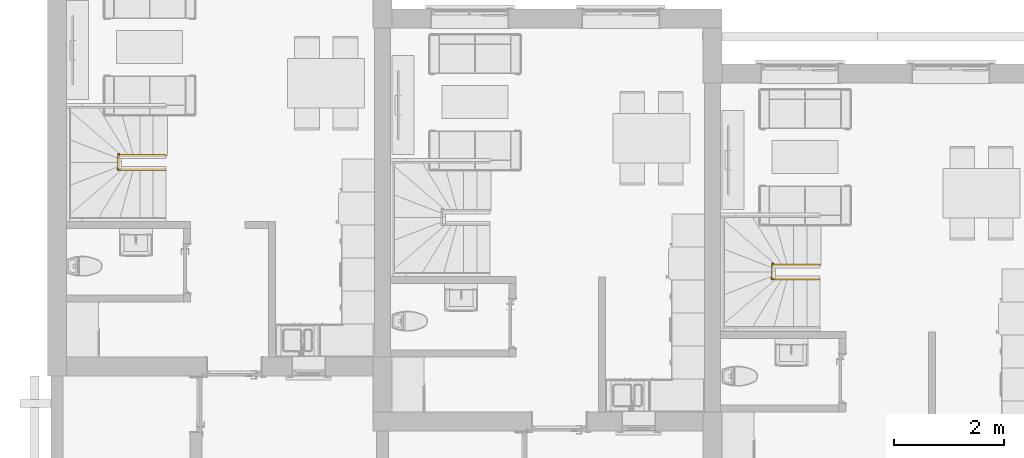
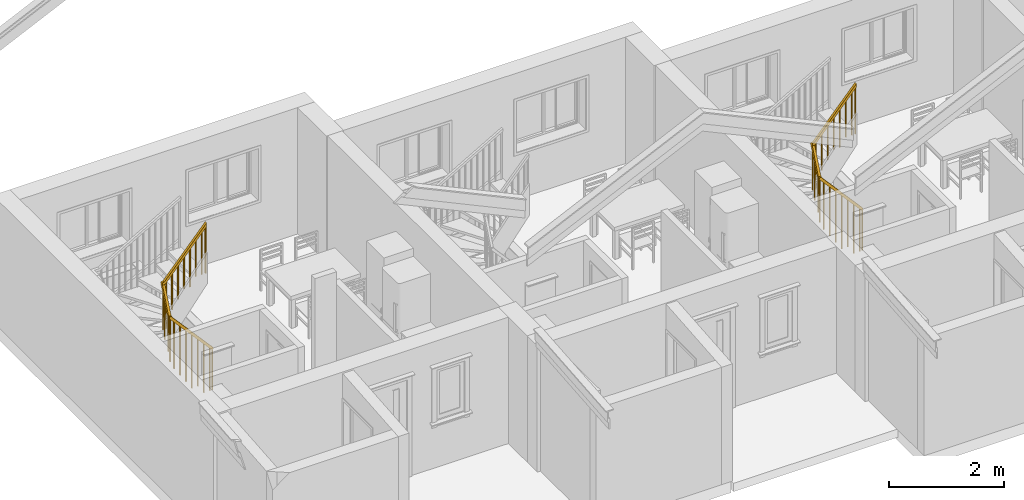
# One storey, part 29 of 65: 2 railings, 2 elements without a shape of their own.
"""IFC2X3 building model written with IfcOpenShell, lengths in millimetres."""

from ifc_helpers import new_model, entity, si_unit, converted_unit, direction, frame, origin, place, context, subcontext, project, spatial, faceted_brep, material, type_object, element, aggregate, save


model = new_model("IFC2X3")

# Units and contexts
model_context = context("Model", 3, precision=0.01, world=origin(), true_north=direction((0.0, 1.0)))
body_context = subcontext(model_context, "Body", "Model", "MODEL_VIEW")
ifc_project = project(units=[si_unit("LENGTHUNIT", "METRE", prefix="MILLI"), si_unit("AREAUNIT", "SQUARE_METRE"), si_unit("VOLUMEUNIT", "CUBIC_METRE"), converted_unit("PLANEANGLEUNIT", "DEGREE", entity("IfcPlaneAngleMeasure", 0.017453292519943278), si_unit("PLANEANGLEUNIT", "RADIAN"), dimensions=[0, 0, 0, 0, 0, 0, 0])], contexts=[model_context])

# Site, building, storey
site_placement = place(None, origin())
site = spatial("IfcSite", under=ifc_project, at=site_placement, Name="Default", CompositionType="ELEMENT")
building_placement = place(site_placement, origin())
building = spatial("IfcBuilding", under=site, at=building_placement, CompositionType="ELEMENT")
storey_placement = place(building_placement, origin())
storey = spatial("IfcBuildingStorey", under=building, at=storey_placement, Name="Et. 1", CompositionType="ELEMENT", Elevation=0.0)

# Stair, railing
type_product = type_object("IfcTypeProduct", Name="Assembled Stair:Tretrapp - Åpne trinn m/ vanger")
stair_1_placement = place(storey_placement, origin())
stair_1 = element("IfcStair", 1, at=stair_1_placement, inside=storey, type_object=type_product, Name="Assembled Stair:Stair", ShapeType="NOTDEFINED")
ifc_material = material(Name="Metall - Malt - MØRK GRÅ MATT")
railing_type = type_object("IfcRailingType", Name="Railing:900mm", PredefinedType="NOTDEFINED")
railing_1_placement = place(stair_1_placement, frame((11357.898701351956, 15144.751787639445, 178.73333333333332)))
railing_1 = element("IfcRailing", 2, at=railing_1_placement, type_object=railing_type, material=ifc_material, Name="Railing:900mm", PredefinedType="NOTDEFINED", context=body_context, shape_type="Brep", body=[
    faceted_brep([(799.5697545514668, 275.8000000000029, 3249.8664435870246), (799.5697545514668, 275.8000000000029, 2323.5333333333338), (799.5697545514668, 255.8000000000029, 2323.5333333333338), (799.5697545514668, 255.8000000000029, 3249.8664435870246), (819.5697545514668, 255.8000000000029, 2323.5333333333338), (819.5697545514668, 255.8000000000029, 3272.3984052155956), (819.5697545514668, 275.8000000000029, 2323.5333333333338), (819.5697545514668, 275.8000000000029, 3272.3984052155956)], [[[0, 1, 2, 3]], [[3, 2, 4, 5]], [[5, 4, 6, 7]], [[1, 0, 7, 6]], [[0, 3, 5, 7]], [[2, 1, 6, 4]]]),
    faceted_brep([(679.5697545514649, 275.8000000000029, 3114.674673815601), (679.5697545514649, 275.8000000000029, 2323.5333333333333), (679.5697545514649, 255.8000000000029, 2323.5333333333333), (679.5697545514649, 255.8000000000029, 3114.674673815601), (699.5697545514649, 255.8000000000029, 2323.5333333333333), (699.5697545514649, 255.8000000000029, 3137.2066354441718), (699.5697545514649, 275.8000000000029, 2323.5333333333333), (699.5697545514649, 275.8000000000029, 3137.2066354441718)], [[[0, 1, 2, 3]], [[3, 2, 4, 5]], [[5, 4, 6, 7]], [[1, 0, 7, 6]], [[0, 3, 5, 7]], [[2, 1, 6, 4]]]),
    faceted_brep([(559.5697545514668, 275.8000000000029, 2979.482904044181), (559.5697545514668, 275.8000000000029, 2144.8000000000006), (559.5697545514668, 255.8000000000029, 2144.8000000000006), (559.5697545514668, 255.8000000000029, 2979.482904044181), (579.5697545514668, 255.8000000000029, 2144.8000000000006), (579.5697545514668, 255.8000000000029, 3002.0148656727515), (579.5697545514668, 275.8000000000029, 2144.8000000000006), (579.5697545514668, 275.8000000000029, 3002.0148656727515)], [[[0, 1, 2, 3]], [[3, 2, 4, 5]], [[5, 4, 6, 7]], [[1, 0, 7, 6]], [[0, 3, 5, 7]], [[2, 1, 6, 4]]]),
    faceted_brep([(439.56975455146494, 275.80000000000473, 2844.291134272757), (439.56975455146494, 275.80000000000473, 2144.8000000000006), (439.56975455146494, 255.80000000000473, 2144.8000000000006), (439.56975455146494, 255.80000000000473, 2844.291134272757), (459.56975455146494, 255.80000000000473, 2144.8000000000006), (459.56975455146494, 255.80000000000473, 2866.823095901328), (459.56975455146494, 275.80000000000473, 2144.8000000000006), (459.56975455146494, 275.80000000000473, 2866.823095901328)], [[[0, 1, 2, 3]], [[3, 2, 4, 5]], [[5, 4, 6, 7]], [[1, 0, 7, 6]], [[0, 3, 5, 7]], [[2, 1, 6, 4]]]),
    faceted_brep([(319.56975455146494, 275.80000000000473, 2709.099364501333), (319.56975455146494, 275.80000000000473, 1966.0666666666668), (319.56975455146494, 255.80000000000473, 1966.0666666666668), (319.56975455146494, 255.80000000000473, 2709.099364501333), (339.56975455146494, 255.80000000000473, 1966.0666666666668), (339.56975455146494, 255.80000000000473, 2731.6313261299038), (339.56975455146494, 275.80000000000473, 1966.0666666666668), (339.56975455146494, 275.80000000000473, 2731.6313261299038)], [[[0, 1, 2, 3]], [[3, 2, 4, 5]], [[5, 4, 6, 7]], [[1, 0, 7, 6]], [[0, 3, 5, 7]], [[2, 1, 6, 4]]]),
    faceted_brep([(199.56975455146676, 275.80000000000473, 2573.907594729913), (199.56975455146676, 275.80000000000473, 1787.333333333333), (199.56975455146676, 255.80000000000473, 1787.333333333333), (199.56975455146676, 255.80000000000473, 2573.907594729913), (219.56975455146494, 255.80000000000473, 1787.333333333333), (219.56975455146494, 255.80000000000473, 2596.4395563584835), (219.56975455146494, 275.80000000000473, 1787.333333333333), (219.56975455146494, 275.80000000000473, 2596.4395563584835)], [[[0, 1, 2, 3]], [[3, 2, 4, 5]], [[5, 4, 6, 7]], [[1, 0, 7, 6]], [[0, 3, 5, 7]], [[2, 1, 6, 4]]]),
    faceted_brep([(79.56975455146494, 275.80000000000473, 2438.7158249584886), (79.56975455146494, 275.80000000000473, 1429.8666666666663), (79.56975455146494, 255.80000000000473, 1429.8666666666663), (79.56975455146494, 255.80000000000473, 2438.7158249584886), (99.56975455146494, 255.80000000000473, 1429.8666666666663), (99.56975455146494, 255.80000000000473, 2461.2477865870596), (99.56975455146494, 275.80000000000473, 1429.8666666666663), (99.56975455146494, 275.80000000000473, 2461.2477865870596)], [[[0, 1, 2, 3]], [[3, 2, 4, 5]], [[5, 4, 6, 7]], [[1, 0, 7, 6]], [[0, 3, 5, 7]], [[2, 1, 6, 4]]]),
    faceted_brep([(19.56975455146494, 195.0, 2224.260740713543), (19.56975455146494, 195.0, 1251.1333333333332), (39.56975455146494, 195.0, 1251.1333333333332), (39.56975455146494, 195.0, 2224.260740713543), (39.56975455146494, 215.0, 1251.1333333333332), (39.56975455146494, 215.0, 2273.9088888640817), (19.56975455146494, 215.0, 1251.1333333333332), (19.56975455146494, 215.0, 2273.9088888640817)], [[[0, 1, 2, 3]], [[3, 2, 4, 5]], [[5, 4, 6, 7]], [[1, 0, 7, 6]], [[0, 3, 5, 7]], [[2, 1, 6, 4]]]),
    faceted_brep([(19.56975455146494, 75.0, 1926.3718518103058), (19.56975455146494, 75.0, 1072.4000000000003), (39.56975455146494, 75.0, 1072.4000000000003), (39.56975455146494, 75.0, 1926.3718518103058), (39.56975455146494, 95.0, 1072.4000000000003), (39.56975455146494, 95.0, 1976.019999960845), (19.56975455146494, 95.0, 1072.4000000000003), (19.56975455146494, 95.0, 1976.019999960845)], [[[0, 1, 2, 3]], [[3, 2, 4, 5]], [[5, 4, 6, 7]], [[1, 0, 7, 6]], [[0, 3, 5, 7]], [[2, 1, 6, 4]]]),
    faceted_brep([(120.46305970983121, 15.0, 1717.4805225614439), (120.46305970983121, 15.0, 714.9333333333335), (120.46305970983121, 35.0, 714.9333333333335), (120.46305970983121, 35.0, 1717.4805225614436), (100.46305970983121, 35.0, 714.9333333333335), (100.46305970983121, 35.0, 1740.0124841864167), (100.46305970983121, 15.0, 714.9333333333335), (100.46305970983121, 15.0, 1740.0124841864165)], [[[0, 1, 2, 3]], [[3, 2, 4, 5]], [[5, 4, 6, 7]], [[1, 0, 7, 6]], [[0, 3, 5, 7]], [[2, 1, 6, 4]]]),
    faceted_brep([(240.46305970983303, 15.0, 1582.2887528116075), (240.46305970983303, 15.0, 536.2000000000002), (240.46305970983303, 35.0, 536.2000000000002), (240.46305970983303, 35.0, 1582.288752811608), (220.46305970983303, 35.0, 536.2000000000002), (220.46305970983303, 35.0, 1604.8207144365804), (220.46305970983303, 15.0, 536.2000000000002), (220.46305970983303, 15.0, 1604.8207144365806)], [[[0, 1, 2, 3]], [[3, 2, 4, 5]], [[5, 4, 6, 7]], [[1, 0, 7, 6]], [[0, 3, 5, 7]], [[2, 1, 6, 4]]]),
    faceted_brep([(360.4630597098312, 15.0, 1447.0969830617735), (360.4630597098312, 15.0, 357.4666666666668), (360.4630597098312, 35.0, 357.4666666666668), (360.4630597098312, 35.0, 1447.0969830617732), (340.4630597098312, 35.0, 357.4666666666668), (340.4630597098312, 35.0, 1469.628944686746), (340.4630597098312, 15.0, 357.4666666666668), (340.4630597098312, 15.0, 1469.628944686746)], [[[0, 1, 2, 3]], [[3, 2, 4, 5]], [[5, 4, 6, 7]], [[1, 0, 7, 6]], [[0, 3, 5, 7]], [[2, 1, 6, 4]]]),
    faceted_brep([(480.4630597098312, 15.0, 1311.9052133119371), (480.4630597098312, 15.0, 178.73333333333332), (480.4630597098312, 35.0, 178.73333333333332), (480.4630597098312, 35.0, 1311.9052133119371), (460.4630597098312, 35.0, 178.73333333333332), (460.4630597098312, 35.0, 1334.4371749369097), (460.4630597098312, 15.0, 178.73333333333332), (460.4630597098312, 15.0, 1334.4371749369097)], [[[0, 1, 2, 3]], [[3, 2, 4, 5]], [[5, 4, 6, 7]], [[1, 0, 7, 6]], [[0, 3, 5, 7]], [[2, 1, 6, 4]]]),
    faceted_brep([(600.463059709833, 15.0, 1176.7134435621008), (600.463059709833, 15.0, 178.73333333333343), (600.463059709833, 35.0, 178.73333333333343), (600.463059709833, 35.0, 1176.713443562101), (580.463059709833, 35.0, 178.73333333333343), (580.463059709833, 35.0, 1199.2454051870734), (580.463059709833, 15.0, 178.73333333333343), (580.463059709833, 15.0, 1199.2454051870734)], [[[0, 1, 2, 3]], [[3, 2, 4, 5]], [[5, 4, 6, 7]], [[1, 0, 7, 6]], [[0, 3, 5, 7]], [[2, 1, 6, 4]]]),
    faceted_brep([(720.4630597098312, 15.0, 1041.521673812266), (720.4630597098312, 15.0, 0.0), (720.4630597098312, 35.0, 0.0), (720.4630597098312, 35.0, 1041.521673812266), (700.4630597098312, 35.0, 0.0), (700.4630597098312, 35.0, 1064.0536354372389), (700.4630597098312, 15.0, 0.0), (700.4630597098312, 15.0, 1064.0536354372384)], [[[0, 1, 2, 3]], [[3, 2, 4, 5]], [[5, 4, 6, 7]], [[1, 0, 7, 6]], [[0, 3, 5, 7]], [[2, 1, 6, 4]]]),
    faceted_brep([(840.463059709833, 15.0, 906.3299040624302), (840.463059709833, 15.0, 0.0), (840.463059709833, 35.0, 0.0), (840.463059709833, 35.0, 906.3299040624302), (820.463059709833, 35.0, 0.0), (820.463059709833, 35.0, 928.8618656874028), (820.463059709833, 15.0, 0.0), (820.463059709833, 15.0, 928.8618656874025)], [[[0, 1, 2, 3]], [[3, 2, 4, 5]], [[5, 4, 6, 7]], [[1, 0, 7, 6]], [[0, 3, 5, 7]], [[2, 1, 6, 4]]]),
    faceted_brep([(19.56975455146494, 255.80000000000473, 2391.200553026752), (19.56975455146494, 255.80000000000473, 1429.8666666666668), (39.56975455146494, 255.80000000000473, 1429.8666666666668), (39.56975455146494, 255.80000000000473, 2391.200553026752), (39.56975455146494, 275.80000000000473, 1429.8666666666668), (39.56975455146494, 275.80000000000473, 2391.200553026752), (19.56975455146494, 275.80000000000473, 1429.8666666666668), (19.56975455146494, 275.80000000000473, 2391.200553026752)], [[[0, 1, 2, 3]], [[3, 2, 4, 5]], [[5, 4, 6, 7]], [[1, 0, 7, 6]], [[0, 3, 5, 7]], [[2, 1, 6, 4]]]),
    faceted_brep([(39.56975455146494, 15.0, 1811.0661135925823), (39.56975455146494, 15.0, 893.6666666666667), (39.56975455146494, 35.0, 893.6666666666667), (39.56975455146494, 35.0, 1811.0661135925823), (19.56975455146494, 35.0, 893.6666666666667), (19.56975455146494, 35.0, 1811.0661135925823), (19.56975455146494, 15.0, 893.6666666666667), (19.56975455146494, 15.0, 1811.0661135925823)], [[[0, 1, 2, 3]], [[3, 2, 4, 5]], [[5, 4, 6, 7]], [[1, 0, 7, 6]], [[0, 3, 5, 7]], [[2, 1, 6, 4]]]),
    faceted_brep([(870.4630595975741, 275.8000000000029, 3329.5840202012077), (870.4630595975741, 275.8000000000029, 2323.5333333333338), (870.4630595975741, 255.8000000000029, 2323.5333333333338), (870.4630595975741, 255.8000000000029, 3329.5840202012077), (890.4630595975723, 255.8000000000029, 2323.5333333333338), (890.4630595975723, 255.8000000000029, 3352.2666666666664), (890.4630595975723, 275.8000000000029, 2323.5333333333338), (890.4630595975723, 275.8000000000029, 3352.2666666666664)], [[[0, 1, 2, 3]], [[3, 2, 4, 5]], [[5, 4, 6, 7]], [[1, 0, 7, 6]], [[0, 3, 5, 7]], [[2, 1, 6, 4]]]),
    faceted_brep([(890.4630597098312, 15.0, 850.0), (890.4630597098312, 15.0, 0.0), (890.4630597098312, 35.0, 0.0), (890.4630597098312, 35.0, 850.0), (870.4630597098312, 35.0, 0.0), (870.4630597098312, 35.0, 872.5319616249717), (870.4630597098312, 15.0, 0.0), (870.4630597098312, 15.0, 872.5319616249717)], [[[0, 1, 2, 3]], [[3, 2, 4, 5]], [[5, 4, 6, 7]], [[1, 0, 7, 6]], [[0, 3, 5, 7]], [[2, 1, 6, 4]]]),
    faceted_brep([(890.4630597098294, 50.0, 900.0), (890.4630597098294, 0.0, 900.0), (853.0691908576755, 0.0, 866.8081550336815), (853.0691908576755, 50.0, 866.8081550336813), (37.39386885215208, 50.0, 1861.066113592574), (0.0, 50.0, 1827.8742686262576), (0.0, 0.0, 1827.8742686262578), (37.39386885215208, 0.0, 1861.0661135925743)], [[[0, 1, 2, 3]], [[4, 5, 6, 7]], [[1, 0, 4, 7]], [[2, 1, 7, 6]], [[3, 2, 6, 5]], [[0, 3, 5, 4]]]),
    faceted_brep([(37.3938688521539, 50.0, 1861.066113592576), (37.3938688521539, 0.0, 1861.066113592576), (37.3938688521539, 0.0, 1811.066113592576), (37.3938688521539, 50.0, 1811.066113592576), (29.56975455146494, 50.0, 1861.066113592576), (29.56975455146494, 50.0, 1811.066113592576), (29.56975455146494, 0.0, 1811.066113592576), (29.56975455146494, 0.0, 1861.066113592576)], [[[0, 1, 2, 3]], [[4, 5, 6, 7]], [[1, 0, 4, 7]], [[2, 1, 7, 6]], [[3, 2, 6, 5]], [[0, 3, 5, 4]]]),
    faceted_brep([(54.56975455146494, 0.0, 1861.066113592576), (4.569754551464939, 0.0, 1861.066113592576), (4.569754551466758, 0.0, 1811.066113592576), (54.56975455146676, 0.0, 1811.066113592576), (54.56975455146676, 28.55084025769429, 1861.066113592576), (54.56975455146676, 28.55084025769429, 1811.066113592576), (4.569754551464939, 28.55084025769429, 1811.066113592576), (4.569754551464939, 28.55084025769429, 1861.066113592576)], [[[0, 1, 2, 3]], [[4, 5, 6, 7]], [[1, 0, 4, 7]], [[2, 1, 7, 6]], [[3, 2, 6, 5]], [[0, 3, 5, 4]]]),
    faceted_brep([(54.56975455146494, 28.55084025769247, 1861.0661135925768), (4.569754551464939, 28.55084025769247, 1861.0661135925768), (4.569754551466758, 74.92920139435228, 1842.3832974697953), (54.56975455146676, 74.92920139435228, 1842.3832974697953), (54.56975455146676, 262.24915974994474, 2441.2005530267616), (54.56975455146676, 308.62752088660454, 2422.5177369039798), (4.569754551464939, 308.62752088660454, 2422.5177369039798), (4.569754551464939, 262.24915974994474, 2441.2005530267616)], [[[0, 1, 2, 3]], [[4, 5, 6, 7]], [[1, 0, 4, 7]], [[2, 1, 7, 6]], [[3, 2, 6, 5]], [[0, 3, 5, 4]]]),
    faceted_brep([(4.569754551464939, 240.80000000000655, 2441.2005530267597), (4.569754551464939, 290.80000000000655, 2441.2005530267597), (4.569754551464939, 290.8000000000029, 2391.2005530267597), (4.569754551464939, 240.80000000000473, 2391.2005530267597), (37.393868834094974, 240.80000000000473, 2441.2005530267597), (37.393868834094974, 290.80000000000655, 2441.2005530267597), (59.86834867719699, 290.80000000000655, 2391.2005530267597), (59.86834867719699, 240.80000000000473, 2391.2005530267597), (890.4630595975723, 240.79999999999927, 3402.2666666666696), (890.4630595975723, 240.79999999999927, 3326.94696079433), (890.4630595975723, 290.8000000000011, 3326.94696079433), (890.4630595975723, 290.8000000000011, 3402.2666666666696)], [[[0, 1, 2, 3]], [[1, 0, 4, 5]], [[2, 1, 5, 6]], [[3, 2, 6, 7]], [[0, 3, 7, 4]], [[8, 9, 10, 11]], [[5, 4, 8, 11]], [[6, 5, 11, 10]], [[7, 6, 10, 9]], [[4, 7, 9, 8]]]),
    faceted_brep([(54.56975455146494, 262.2491597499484, 2441.2005530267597), (4.569754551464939, 262.2491597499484, 2441.2005530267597), (4.569754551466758, 262.2491597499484, 2391.2005530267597), (54.56975455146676, 262.2491597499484, 2391.2005530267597), (54.56975455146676, 265.80000000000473, 2441.2005530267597), (54.56975455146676, 265.80000000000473, 2391.2005530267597), (4.569754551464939, 265.80000000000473, 2391.2005530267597), (4.569754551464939, 265.80000000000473, 2441.2005530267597)], [[[0, 1, 2, 3]], [[4, 5, 6, 7]], [[1, 0, 4, 7]], [[2, 1, 7, 6]], [[3, 2, 6, 5]], [[0, 3, 5, 4]]]),
])
aggregate(stair_1, [railing_1])

stair_2_placement = place(storey_placement, origin())
stair_2 = element("IfcStair", 3, at=stair_2_placement, inside=storey, type_object=type_product, Name="Assembled Stair:Stair", ShapeType="NOTDEFINED")
railing_2_placement = place(stair_2_placement, frame((23244.679703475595, 13156.04507753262, 178.73333333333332)))
railing_2 = element("IfcRailing", 4, at=railing_2_placement, type_object=railing_type, material=ifc_material, Name="Railing:900mm", PredefinedType="NOTDEFINED", context=body_context, shape_type="Brep", body=[
    faceted_brep([(799.5697545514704, 275.79999999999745, 3249.8664435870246), (799.5697545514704, 275.79999999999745, 2323.5333333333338), (799.5697545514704, 255.79999999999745, 2323.5333333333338), (799.5697545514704, 255.79999999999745, 3249.8664435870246), (819.569754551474, 255.79999999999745, 2323.5333333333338), (819.5697545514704, 255.79999999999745, 3272.3984052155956), (819.569754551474, 275.79999999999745, 2323.5333333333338), (819.569754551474, 275.79999999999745, 3272.3984052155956)], [[[0, 1, 2, 3]], [[3, 2, 4, 5]], [[5, 4, 6, 7]], [[1, 0, 7, 6]], [[0, 3, 5, 7]], [[2, 1, 6, 4]]]),
    faceted_brep([(679.5697545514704, 275.79999999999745, 3114.674673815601), (679.5697545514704, 275.79999999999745, 2323.5333333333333), (679.5697545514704, 255.79999999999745, 2323.5333333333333), (679.5697545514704, 255.79999999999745, 3114.674673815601), (699.569754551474, 255.79999999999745, 2323.5333333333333), (699.5697545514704, 255.79999999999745, 3137.2066354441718), (699.569754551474, 275.79999999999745, 2323.5333333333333), (699.569754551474, 275.79999999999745, 3137.2066354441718)], [[[0, 1, 2, 3]], [[3, 2, 4, 5]], [[5, 4, 6, 7]], [[1, 0, 7, 6]], [[0, 3, 5, 7]], [[2, 1, 6, 4]]]),
    faceted_brep([(559.5697545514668, 275.79999999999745, 2979.482904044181), (559.5697545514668, 275.79999999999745, 2144.8000000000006), (559.5697545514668, 255.79999999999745, 2144.8000000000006), (559.5697545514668, 255.79999999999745, 2979.482904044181), (579.5697545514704, 255.79999999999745, 2144.8000000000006), (579.5697545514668, 255.79999999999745, 3002.0148656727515), (579.5697545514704, 275.79999999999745, 2144.8000000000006), (579.5697545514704, 275.79999999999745, 3002.0148656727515)], [[[0, 1, 2, 3]], [[3, 2, 4, 5]], [[5, 4, 6, 7]], [[1, 0, 7, 6]], [[0, 3, 5, 7]], [[2, 1, 6, 4]]]),
    faceted_brep([(439.5697545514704, 275.7999999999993, 2844.291134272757), (439.5697545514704, 275.7999999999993, 2144.8000000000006), (439.5697545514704, 255.8000000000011, 2144.8000000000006), (439.5697545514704, 255.8000000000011, 2844.291134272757), (459.56975455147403, 255.8000000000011, 2144.8000000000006), (459.56975455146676, 255.8000000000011, 2866.823095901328), (459.56975455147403, 275.7999999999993, 2144.8000000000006), (459.56975455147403, 275.7999999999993, 2866.823095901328)], [[[0, 1, 2, 3]], [[3, 2, 4, 5]], [[5, 4, 6, 7]], [[1, 0, 7, 6]], [[0, 3, 5, 7]], [[2, 1, 6, 4]]]),
    faceted_brep([(319.5697545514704, 275.7999999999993, 2709.099364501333), (319.5697545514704, 275.7999999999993, 1966.0666666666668), (319.5697545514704, 255.8000000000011, 1966.0666666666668), (319.5697545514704, 255.8000000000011, 2709.099364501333), (339.56975455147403, 255.8000000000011, 1966.0666666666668), (339.5697545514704, 255.8000000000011, 2731.6313261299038), (339.56975455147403, 275.7999999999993, 1966.0666666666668), (339.56975455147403, 275.7999999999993, 2731.6313261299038)], [[[0, 1, 2, 3]], [[3, 2, 4, 5]], [[5, 4, 6, 7]], [[1, 0, 7, 6]], [[0, 3, 5, 7]], [[2, 1, 6, 4]]]),
    faceted_brep([(199.56975455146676, 275.7999999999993, 2573.907594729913), (199.56975455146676, 275.7999999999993, 1787.333333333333), (199.56975455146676, 255.8000000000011, 1787.333333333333), (199.56975455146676, 255.8000000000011, 2573.907594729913), (219.5697545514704, 255.8000000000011, 1787.333333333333), (219.56975455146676, 255.8000000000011, 2596.4395563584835), (219.5697545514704, 275.7999999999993, 1787.333333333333), (219.5697545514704, 275.7999999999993, 2596.4395563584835)], [[[0, 1, 2, 3]], [[3, 2, 4, 5]], [[5, 4, 6, 7]], [[1, 0, 7, 6]], [[0, 3, 5, 7]], [[2, 1, 6, 4]]]),
    faceted_brep([(79.56975455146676, 275.7999999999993, 2438.7158249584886), (79.56975455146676, 275.7999999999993, 1429.8666666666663), (79.56975455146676, 255.8000000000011, 1429.8666666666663), (79.56975455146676, 255.8000000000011, 2438.7158249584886), (99.56975455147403, 255.8000000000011, 1429.8666666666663), (99.56975455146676, 255.8000000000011, 2461.2477865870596), (99.56975455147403, 275.7999999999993, 1429.8666666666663), (99.56975455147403, 275.7999999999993, 2461.2477865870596)], [[[0, 1, 2, 3]], [[3, 2, 4, 5]], [[5, 4, 6, 7]], [[1, 0, 7, 6]], [[0, 3, 5, 7]], [[2, 1, 6, 4]]]),
    faceted_brep([(19.569754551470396, 195.0, 2224.260740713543), (19.569754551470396, 195.0, 1251.1333333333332), (39.569754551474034, 195.0, 1251.1333333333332), (39.569754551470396, 195.0, 2224.260740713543), (39.569754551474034, 215.0, 1251.1333333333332), (39.569754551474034, 215.0, 2273.9088888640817), (19.569754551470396, 215.0, 1251.1333333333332), (19.569754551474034, 215.0, 2273.9088888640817)], [[[0, 1, 2, 3]], [[3, 2, 4, 5]], [[5, 4, 6, 7]], [[1, 0, 7, 6]], [[0, 3, 5, 7]], [[2, 1, 6, 4]]]),
    faceted_brep([(19.56975455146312, 75.0, 1926.3718518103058), (19.56975455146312, 75.0, 1072.4000000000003), (39.569754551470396, 75.0, 1072.4000000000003), (39.56975455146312, 75.0, 1926.3718518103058), (39.569754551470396, 95.0, 1072.4000000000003), (39.569754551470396, 95.0, 1976.019999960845), (19.56975455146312, 95.0, 1072.4000000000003), (19.569754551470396, 95.0, 1976.019999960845)], [[[0, 1, 2, 3]], [[3, 2, 4, 5]], [[5, 4, 6, 7]], [[1, 0, 7, 6]], [[0, 3, 5, 7]], [[2, 1, 6, 4]]]),
    faceted_brep([(120.4630597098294, 15.0, 1717.4805225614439), (120.4630597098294, 15.0, 714.9333333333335), (120.4630597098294, 35.0, 714.9333333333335), (120.4630597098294, 35.0, 1717.4805225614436), (100.46305970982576, 35.0, 714.9333333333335), (100.4630597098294, 35.0, 1740.0124841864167), (100.46305970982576, 15.0, 714.9333333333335), (100.46305970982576, 15.0, 1740.0124841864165)], [[[0, 1, 2, 3]], [[3, 2, 4, 5]], [[5, 4, 6, 7]], [[1, 0, 7, 6]], [[0, 3, 5, 7]], [[2, 1, 6, 4]]]),
    faceted_brep([(240.4630597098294, 15.0, 1582.2887528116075), (240.4630597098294, 15.0, 536.2000000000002), (240.4630597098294, 35.0, 536.2000000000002), (240.4630597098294, 35.0, 1582.288752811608), (220.46305970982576, 35.0, 536.2000000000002), (220.4630597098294, 35.0, 1604.8207144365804), (220.46305970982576, 15.0, 536.2000000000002), (220.46305970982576, 15.0, 1604.8207144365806)], [[[0, 1, 2, 3]], [[3, 2, 4, 5]], [[5, 4, 6, 7]], [[1, 0, 7, 6]], [[0, 3, 5, 7]], [[2, 1, 6, 4]]]),
    faceted_brep([(360.46305970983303, 15.0, 1447.0969830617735), (360.46305970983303, 15.0, 357.4666666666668), (360.46305970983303, 35.0, 357.4666666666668), (360.46305970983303, 35.0, 1447.0969830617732), (340.4630597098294, 35.0, 357.4666666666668), (340.46305970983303, 35.0, 1469.628944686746), (340.4630597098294, 15.0, 357.4666666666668), (340.4630597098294, 15.0, 1469.628944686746)], [[[0, 1, 2, 3]], [[3, 2, 4, 5]], [[5, 4, 6, 7]], [[1, 0, 7, 6]], [[0, 3, 5, 7]], [[2, 1, 6, 4]]]),
    faceted_brep([(480.4630597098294, 15.0, 1311.9052133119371), (480.4630597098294, 15.0, 178.73333333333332), (480.4630597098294, 35.0, 178.73333333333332), (480.4630597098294, 35.0, 1311.9052133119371), (460.46305970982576, 35.0, 178.73333333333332), (460.4630597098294, 35.0, 1334.4371749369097), (460.46305970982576, 15.0, 178.73333333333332), (460.46305970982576, 15.0, 1334.4371749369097)], [[[0, 1, 2, 3]], [[3, 2, 4, 5]], [[5, 4, 6, 7]], [[1, 0, 7, 6]], [[0, 3, 5, 7]], [[2, 1, 6, 4]]]),
    faceted_brep([(600.4630597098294, 15.0, 1176.7134435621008), (600.4630597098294, 15.0, 178.73333333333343), (600.4630597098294, 35.0, 178.73333333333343), (600.4630597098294, 35.0, 1176.713443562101), (580.4630597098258, 35.0, 178.73333333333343), (580.4630597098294, 35.0, 1199.2454051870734), (580.4630597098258, 15.0, 178.73333333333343), (580.4630597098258, 15.0, 1199.2454051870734)], [[[0, 1, 2, 3]], [[3, 2, 4, 5]], [[5, 4, 6, 7]], [[1, 0, 7, 6]], [[0, 3, 5, 7]], [[2, 1, 6, 4]]]),
    faceted_brep([(720.463059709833, 15.0, 1041.521673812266), (720.463059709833, 15.0, 0.0), (720.463059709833, 35.0, 0.0), (720.463059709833, 35.0, 1041.521673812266), (700.4630597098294, 35.0, 0.0), (700.463059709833, 35.0, 1064.0536354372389), (700.4630597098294, 15.0, 0.0), (700.4630597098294, 15.0, 1064.0536354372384)], [[[0, 1, 2, 3]], [[3, 2, 4, 5]], [[5, 4, 6, 7]], [[1, 0, 7, 6]], [[0, 3, 5, 7]], [[2, 1, 6, 4]]]),
    faceted_brep([(840.4630597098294, 15.0, 906.3299040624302), (840.4630597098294, 15.0, 0.0), (840.4630597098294, 35.0, 0.0), (840.4630597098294, 35.0, 906.3299040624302), (820.4630597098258, 35.0, 0.0), (820.463059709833, 35.0, 928.8618656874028), (820.4630597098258, 15.0, 0.0), (820.4630597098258, 15.0, 928.8618656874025)], [[[0, 1, 2, 3]], [[3, 2, 4, 5]], [[5, 4, 6, 7]], [[1, 0, 7, 6]], [[0, 3, 5, 7]], [[2, 1, 6, 4]]]),
    faceted_brep([(19.569754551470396, 255.8000000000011, 2391.200553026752), (19.569754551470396, 255.8000000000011, 1429.8666666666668), (39.569754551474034, 255.8000000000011, 1429.8666666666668), (39.569754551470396, 255.8000000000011, 2391.200553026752), (39.569754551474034, 275.7999999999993, 1429.8666666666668), (39.569754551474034, 275.7999999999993, 2391.200553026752), (19.569754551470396, 275.7999999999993, 1429.8666666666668), (19.569754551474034, 275.7999999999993, 2391.200553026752)], [[[0, 1, 2, 3]], [[3, 2, 4, 5]], [[5, 4, 6, 7]], [[1, 0, 7, 6]], [[0, 3, 5, 7]], [[2, 1, 6, 4]]]),
    faceted_brep([(39.569754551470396, 15.0, 1811.0661135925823), (39.569754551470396, 15.0, 893.6666666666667), (39.569754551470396, 35.0, 893.6666666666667), (39.569754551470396, 35.0, 1811.0661135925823), (19.56975455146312, 35.0, 893.6666666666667), (19.569754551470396, 35.0, 1811.0661135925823), (19.56975455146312, 15.0, 893.6666666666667), (19.56975455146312, 15.0, 1811.0661135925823)], [[[0, 1, 2, 3]], [[3, 2, 4, 5]], [[5, 4, 6, 7]], [[1, 0, 7, 6]], [[0, 3, 5, 7]], [[2, 1, 6, 4]]]),
    faceted_brep([(870.4630595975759, 275.79999999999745, 3329.734705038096), (870.4630595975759, 275.79999999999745, 2323.5333333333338), (870.4630595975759, 255.79999999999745, 2323.5333333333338), (870.4630595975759, 255.79999999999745, 3329.734705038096), (890.4630595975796, 255.79999999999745, 2323.5333333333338), (890.4630595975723, 255.79999999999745, 3352.266666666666), (890.4630595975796, 275.79999999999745, 2323.5333333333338), (890.4630595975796, 275.79999999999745, 3352.266666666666)], [[[0, 1, 2, 3]], [[3, 2, 4, 5]], [[5, 4, 6, 7]], [[1, 0, 7, 6]], [[0, 3, 5, 7]], [[2, 1, 6, 4]]]),
    faceted_brep([(890.4630597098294, 15.0, 850.0), (890.4630597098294, 15.0, 0.0), (890.4630597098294, 35.0, 0.0), (890.4630597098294, 35.0, 850.0), (870.4630597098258, 35.0, 0.0), (870.4630597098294, 35.0, 872.5319616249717), (870.4630597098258, 15.0, 0.0), (870.4630597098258, 15.0, 872.5319616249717)], [[[0, 1, 2, 3]], [[3, 2, 4, 5]], [[5, 4, 6, 7]], [[1, 0, 7, 6]], [[0, 3, 5, 7]], [[2, 1, 6, 4]]]),
    faceted_brep([(890.4630597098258, 50.0, 900.0), (890.4630597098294, 0.0, 900.0), (853.0691908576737, 0.0, 866.8081550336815), (853.06919085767, 50.0, 866.8081550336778), (37.39386885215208, 50.0, 1861.0661135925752), (0.0, 50.0, 1827.8742686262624), (0.0, 0.0, 1827.8742686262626), (37.39386885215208, 0.0, 1861.0661135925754)], [[[0, 1, 2, 3]], [[4, 5, 6, 7]], [[1, 0, 4, 7]], [[2, 1, 7, 6]], [[3, 2, 6, 5]], [[0, 3, 5, 4]]]),
    faceted_brep([(37.39386885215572, 50.0, 1861.066113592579), (37.39386885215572, 0.0, 1861.066113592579), (37.39386885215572, 0.0, 1811.066113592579), (37.39386885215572, 50.0, 1811.066113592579), (29.569754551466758, 50.0, 1861.066113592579), (29.569754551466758, 50.0, 1811.066113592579), (29.569754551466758, 0.0, 1811.066113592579), (29.569754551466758, 0.0, 1861.066113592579)], [[[0, 1, 2, 3]], [[4, 5, 6, 7]], [[1, 0, 4, 7]], [[2, 1, 7, 6]], [[3, 2, 6, 5]], [[0, 3, 5, 4]]]),
    faceted_brep([(54.569754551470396, 0.0, 1861.066113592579), (4.569754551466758, 0.0, 1861.066113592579), (4.56975455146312, 0.0, 1811.066113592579), (54.56975455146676, 0.0, 1811.066113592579), (54.56975455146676, 28.550840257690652, 1861.066113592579), (54.56975455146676, 28.550840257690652, 1811.066113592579), (4.569754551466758, 28.550840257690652, 1811.066113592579), (4.569754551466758, 28.550840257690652, 1861.066113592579)], [[[0, 1, 2, 3]], [[4, 5, 6, 7]], [[1, 0, 4, 7]], [[2, 1, 7, 6]], [[3, 2, 6, 5]], [[0, 3, 5, 4]]]),
    faceted_brep([(54.569754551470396, 28.550840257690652, 1861.0661135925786), (4.569754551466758, 28.550840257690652, 1861.066113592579), (4.56975455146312, 74.92920139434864, 1842.3832974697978), (54.56975455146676, 74.92920139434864, 1842.3832974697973), (54.569754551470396, 262.2491597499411, 2441.200553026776), (54.569754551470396, 308.6275208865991, 2422.517736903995), (4.569754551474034, 308.6275208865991, 2422.517736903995), (4.569754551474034, 262.2491597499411, 2441.200553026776)], [[[0, 1, 2, 3]], [[4, 5, 6, 7]], [[1, 0, 4, 7]], [[2, 1, 7, 6]], [[3, 2, 6, 5]], [[0, 3, 5, 4]]]),
    faceted_brep([(4.569754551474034, 240.8000000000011, 2441.200553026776), (4.569754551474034, 290.8000000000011, 2441.200553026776), (4.569754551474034, 290.7999999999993, 2391.200553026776), (4.569754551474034, 240.79999999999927, 2391.200553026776), (37.39386883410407, 240.79999999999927, 2441.200553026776), (37.39386883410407, 290.8000000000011, 2441.200553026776), (59.86834867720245, 290.8000000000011, 2391.2005530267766), (59.86834867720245, 240.79999999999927, 2391.2005530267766), (890.4630595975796, 240.79999999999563, 3402.266666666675), (890.4630595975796, 240.79999999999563, 3326.946960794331), (890.4630595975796, 290.79999999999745, 3326.946960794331), (890.4630595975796, 290.79999999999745, 3402.266666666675)], [[[0, 1, 2, 3]], [[1, 0, 4, 5]], [[2, 1, 5, 6]], [[3, 2, 6, 7]], [[0, 3, 7, 4]], [[8, 9, 10, 11]], [[5, 4, 8, 11]], [[6, 5, 11, 10]], [[7, 6, 10, 9]], [[4, 7, 9, 8]]]),
    faceted_brep([(54.569754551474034, 262.2491597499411, 2441.200553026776), (4.569754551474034, 262.2491597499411, 2441.200553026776), (4.569754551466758, 262.2491597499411, 2391.200553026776), (54.569754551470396, 262.2491597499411, 2391.200553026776), (54.569754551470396, 265.7999999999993, 2441.200553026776), (54.569754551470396, 265.7999999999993, 2391.200553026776), (4.569754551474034, 265.7999999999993, 2391.200553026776), (4.569754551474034, 265.7999999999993, 2441.200553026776)], [[[0, 1, 2, 3]], [[4, 5, 6, 7]], [[1, 0, 4, 7]], [[2, 1, 7, 6]], [[3, 2, 6, 5]], [[0, 3, 5, 4]]]),
])
aggregate(stair_2, [railing_2])

save(model, "model.ifc")
